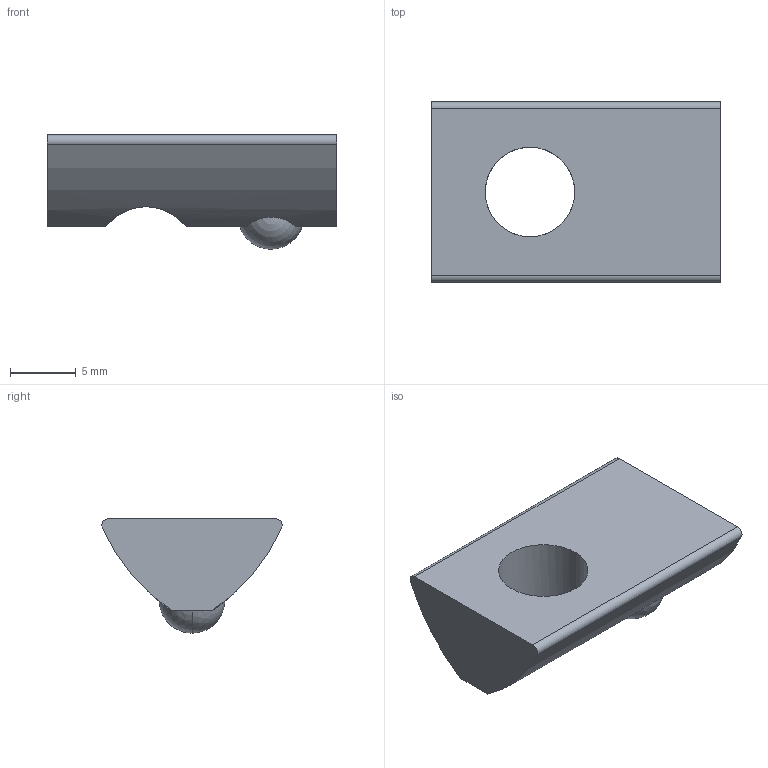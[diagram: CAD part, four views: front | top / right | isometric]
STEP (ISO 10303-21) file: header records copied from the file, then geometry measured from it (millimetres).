
FILE_DESCRIPTION (( 'STEP AP203' ), '1' );
FILE_NAME ('0108NSM8R.STEP', '2024-09-04T12:52:58', ( 'Windows-Benutzer' ), ( '' ), 'SwSTEP 2.0', 'SolidWorks 2024', '' );
FILE_SCHEMA (( 'CONFIG_CONTROL_DESIGN' ));
Length unit declared in the file: millimetre
Products named in the file (1): 0108NSM8R
Bounding box: 22 x 13.7 x 8.7 mm (x, y, z)
Volume: 1274.2 mm3; surface area: 961.8 mm2
Topology: 1 solids, 1 shells, 14 faces, 40 edges, 27 vertices
Faces by surface type: cylinder 6, plane 6, sphere 2
Entity records: 629 total; most frequent: CARTESIAN_POINT 166, DIRECTION 86, ORIENTED_EDGE 80, EDGE_CURVE 40, AXIS2_PLACEMENT_3D 35, VERTEX_POINT 27, CIRCLE 20, LINE 16
